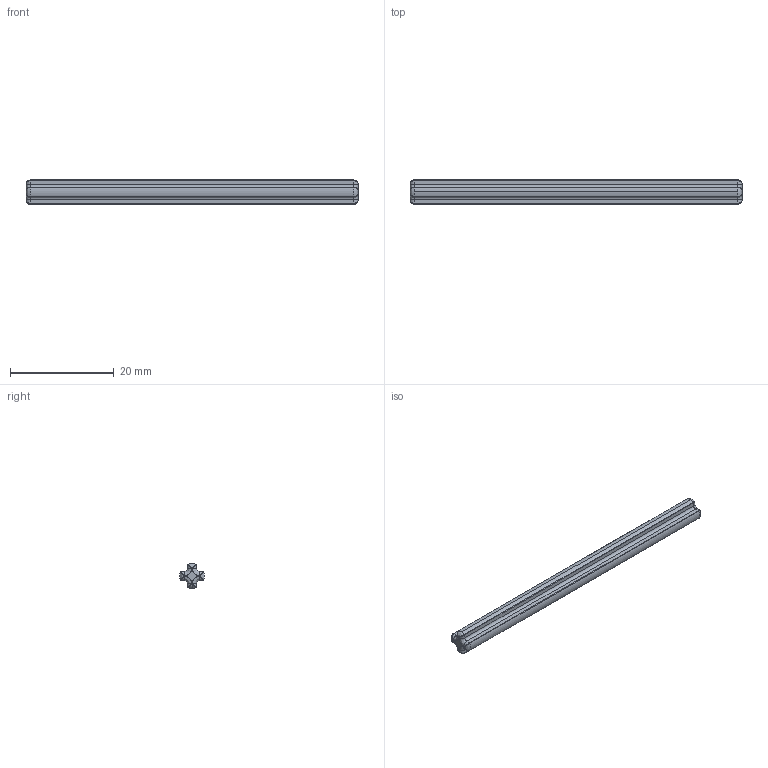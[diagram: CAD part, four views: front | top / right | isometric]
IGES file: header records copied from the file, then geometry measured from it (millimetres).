
Start section: SolidWorks IGES file using analytic representation for surfaces
Global section: file name: C:\Users\PC\Desktop\Lego Technik Gear and Axles\Axles\STEP, IGES, STL\3707 Black Technic Axle 8.IGS; native system: SolidWorks 2014; preprocessor: SolidWorks 2014; author: PC; date: 150218.233419; units: millimetre
Bounding box: 64 x 4.79 x 4.8 mm (x, y, z)
Surface area: 1102.4 mm2 (no closed solid volume)
Topology: 0 solids, 0 shells, 77 faces, 490 edges, 474 vertices
Faces by surface type: bspline 44, revolution 33
